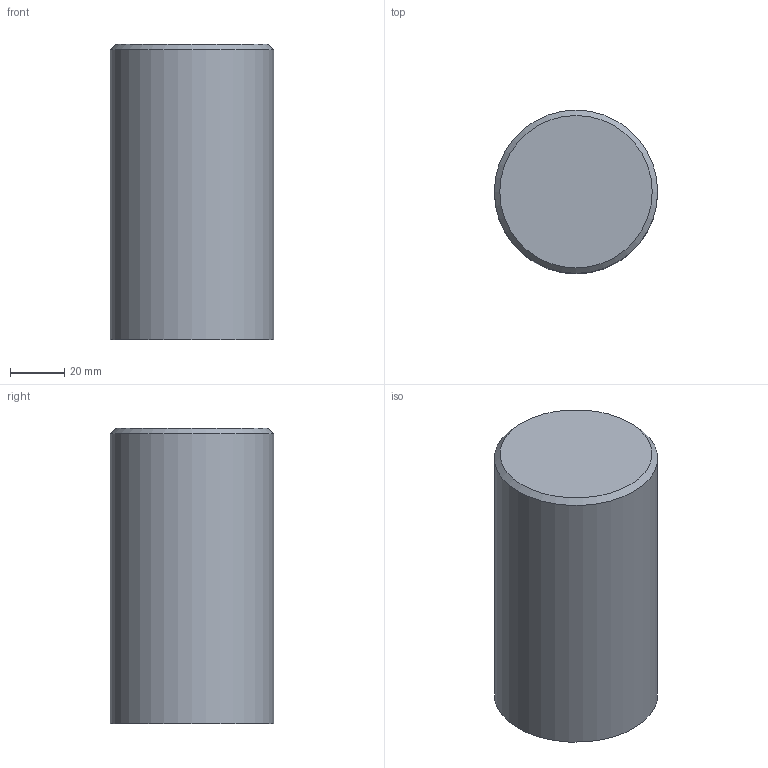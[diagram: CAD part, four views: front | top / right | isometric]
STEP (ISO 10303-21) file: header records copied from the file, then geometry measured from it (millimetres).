
FILE_DESCRIPTION(/* description */ (''),/* implementation_level */ '2;1');
FILE_NAME(/* name */ '',/* time_stamp */ '',/* author */ (''),/* organization */ (''),/* preprocessor_version */ 'ST-DEVELOPER v20',/* originating_system */ 'Autodesk Translation Framework v12.20.1.177',/* authorisation */ '');
FILE_SCHEMA (('AUTOMOTIVE_DESIGN { 1 0 10303 214 3 1 1 }'));
Length unit declared in the file: millimetre
Products named in the file (1): Print in Place Puzzle
Bounding box: 60 x 60 x 108.5 mm (x, y, z)
Volume: 139920.5 mm3; surface area: 63774.3 mm2
Topology: 4 solids, 4 shells, 307 faces, 838 edges, 541 vertices
Faces by surface type: plane 133, cylinder 87, cone 83, bspline 4
Full cylindrical faces by diameter (mm): 13.334 x8, 14.223 x1, 15.622 x7, 16 x2, 17 x2, 49 x1, 50 x1, 60 x1
Entity records: 12446 total; most frequent: CARTESIAN_POINT 4950, ORIENTED_EDGE 1676, DIRECTION 1498, EDGE_CURVE 838, AXIS2_PLACEMENT_3D 579, VERTEX_POINT 541, LINE 340, VECTOR 340
